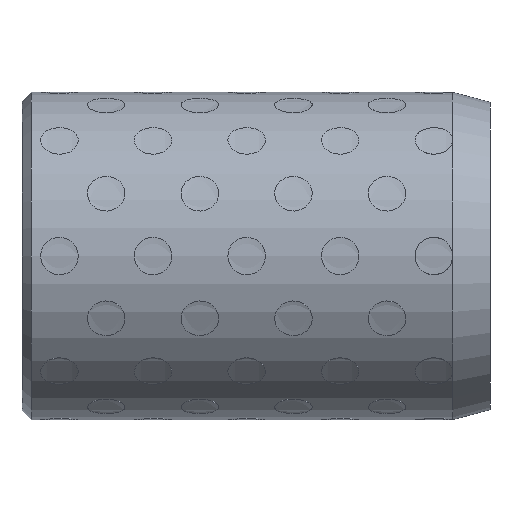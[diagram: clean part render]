
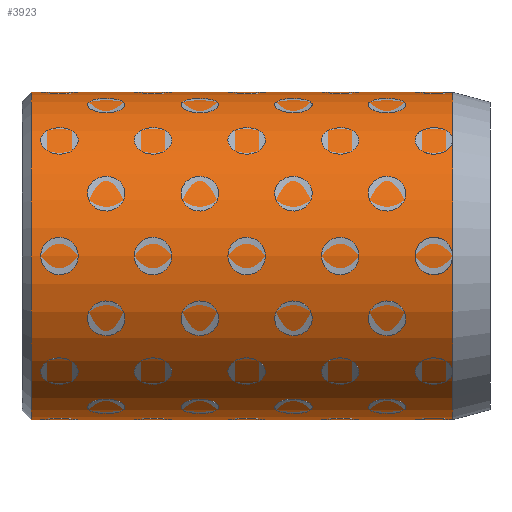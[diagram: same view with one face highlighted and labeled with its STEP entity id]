
A CAD part, left-side view. The second image highlights one B-rep face of the part: STEP entity #3923.
In plain terms, the highlighted cylindrical face has radius 17.5 mm (diameter 35 mm), a full revolution.
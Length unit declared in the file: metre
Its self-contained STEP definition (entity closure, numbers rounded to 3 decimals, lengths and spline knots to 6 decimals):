
#3923 = ADVANCED_FACE( '', ( #4185, #4186 ), #4187, .T. );
#4185 = FACE_OUTER_BOUND( '', #4769, .T. );
#4186 = FACE_OUTER_BOUND( '', #4770, .T. );
#4187 = CYLINDRICAL_SURFACE( '', #4771, 0.0175 );
#4769 = EDGE_LOOP( '', ( #5365 ) );
#4770 = EDGE_LOOP( '', ( #5366 ) );
#4771 = AXIS2_PLACEMENT_3D( '', #5367, #5368, #5369 );
#5365 = ORIENTED_EDGE( '', *, *, #6422, .T. );
#5366 = ORIENTED_EDGE( '', *, *, #6421, .F. );
#5367 = CARTESIAN_POINT( '', ( 0., 0., 0. ) );
#5368 = DIRECTION( '', ( 0., 1., 0. ) );
#5369 = DIRECTION( '', ( 0., 0., -1. ) );
#6421 = EDGE_CURVE( '', #6595, #6595, #6596, .T. );
#6422 = EDGE_CURVE( '', #6597, #6597, #6598, .T. );
#6595 = VERTEX_POINT( '', #6931 );
#6596 = CIRCLE( '', #6932, 0.0175 );
#6597 = VERTEX_POINT( '', #6933 );
#6598 = CIRCLE( '', #6934, 0.0175 );
#6931 = CARTESIAN_POINT( '', ( 0., 0.004, -0.0175 ) );
#6932 = AXIS2_PLACEMENT_3D( '', #15913, #15914, #15915 );
#6933 = CARTESIAN_POINT( '', ( 0., 0.049, -0.0175 ) );
#6934 = AXIS2_PLACEMENT_3D( '', #15916, #15917, #15918 );
#15913 = CARTESIAN_POINT( '', ( 0., 0.004, 0. ) );
#15914 = DIRECTION( '', ( 0., -1., 0. ) );
#15915 = DIRECTION( '', ( 0., 0., -1. ) );
#15916 = CARTESIAN_POINT( '', ( 0., 0.049, 0. ) );
#15917 = DIRECTION( '', ( 0., -1., 0. ) );
#15918 = DIRECTION( '', ( 0., 0., -1. ) );
